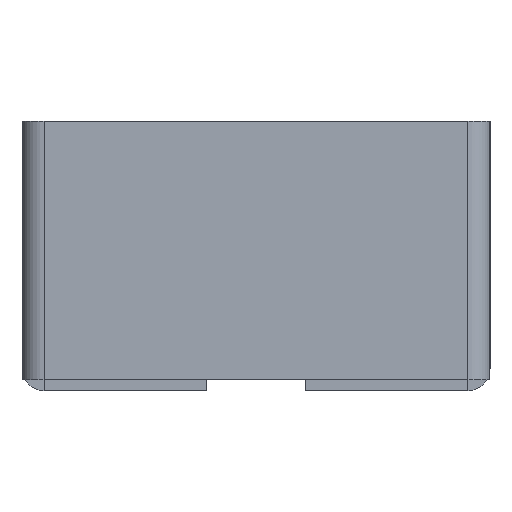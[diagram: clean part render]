
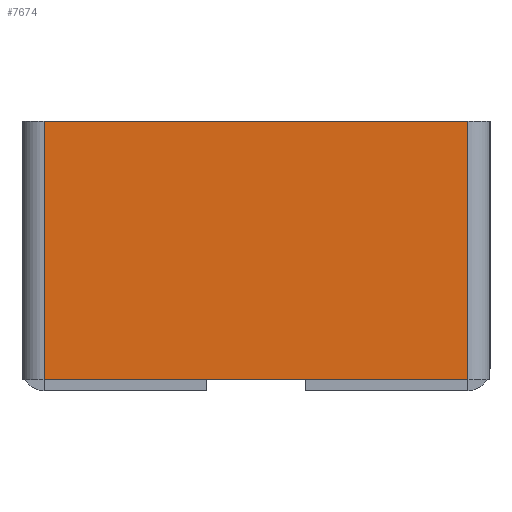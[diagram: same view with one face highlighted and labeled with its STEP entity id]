
A CAD part, front view. The second image highlights one B-rep face of the part: STEP entity #7674.
In plain terms, the highlighted planar face has unit normal (0, -1, 0).
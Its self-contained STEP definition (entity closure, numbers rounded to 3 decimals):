
#133 = CARTESIAN_POINT ( 'NONE',  ( 47.5, -2.5, -58. ) ) ;
#328 = CARTESIAN_POINT ( 'NONE',  ( -50., -2.5, -58. ) ) ;
#440 = EDGE_CURVE ( 'NONE', #4350, #10716, #8166, .T. ) ;
#591 = LINE ( 'NONE', #4101, #8839 ) ;
#1517 = EDGE_LOOP ( 'NONE', ( #8708, #2555, #9918, #10307 ) ) ;
#2119 = VERTEX_POINT ( 'NONE', #9742 ) ;
#2421 = VERTEX_POINT ( 'NONE', #3309 ) ;
#2555 = ORIENTED_EDGE ( 'NONE', *, *, #440, .F. ) ;
#2721 = EDGE_CURVE ( 'NONE', #4350, #2421, #9898, .T. ) ;
#3099 = DIRECTION ( 'NONE',  ( -1., 0., 0. ) ) ;
#3169 = DIRECTION ( 'NONE',  ( 0., 1., 0. ) ) ;
#3205 = PLANE ( 'NONE',  #4435 ) ;
#3309 = CARTESIAN_POINT ( 'NONE',  ( 47.5, -2.5, 0. ) ) ;
#3340 = FACE_OUTER_BOUND ( 'NONE', #1517, .T. ) ;
#4101 = CARTESIAN_POINT ( 'NONE',  ( -50., -2.5, 0. ) ) ;
#4199 = CARTESIAN_POINT ( 'NONE',  ( 47.5, -2.5, -58. ) ) ;
#4350 = VERTEX_POINT ( 'NONE', #4199 ) ;
#4408 = EDGE_CURVE ( 'NONE', #2119, #2421, #591, .T. ) ;
#4435 = AXIS2_PLACEMENT_3D ( 'NONE', #4813, #3169, #4883 ) ;
#4813 = CARTESIAN_POINT ( 'NONE',  ( 0., -2.5, 0. ) ) ;
#4883 = DIRECTION ( 'NONE',  ( 0., 0., 1. ) ) ;
#5526 = DIRECTION ( 'NONE',  ( 0., 0., -1. ) ) ;
#6219 = EDGE_CURVE ( 'NONE', #2119, #10716, #10047, .T. ) ;
#6595 = VECTOR ( 'NONE', #10135, 1000. ) ;
#6628 = VECTOR ( 'NONE', #5526, 1000. ) ;
#7369 = VECTOR ( 'NONE', #3099, 1000. ) ;
#7674 = ADVANCED_FACE ( 'NONE', ( #3340 ), #3205, .F. ) ;
#8166 = LINE ( 'NONE', #328, #7369 ) ;
#8678 = CARTESIAN_POINT ( 'NONE',  ( -47.5, -2.5, -58. ) ) ;
#8708 = ORIENTED_EDGE ( 'NONE', *, *, #6219, .T. ) ;
#8839 = VECTOR ( 'NONE', #10176, 1000. ) ;
#9742 = CARTESIAN_POINT ( 'NONE',  ( -47.5, -2.5, 0. ) ) ;
#9898 = LINE ( 'NONE', #133, #6595 ) ;
#9918 = ORIENTED_EDGE ( 'NONE', *, *, #2721, .T. ) ;
#10047 = LINE ( 'NONE', #10574, #6628 ) ;
#10135 = DIRECTION ( 'NONE',  ( 0., 0., 1. ) ) ;
#10176 = DIRECTION ( 'NONE',  ( 1., 0., 0. ) ) ;
#10307 = ORIENTED_EDGE ( 'NONE', *, *, #4408, .F. ) ;
#10574 = CARTESIAN_POINT ( 'NONE',  ( -47.5, -2.5, 0. ) ) ;
#10716 = VERTEX_POINT ( 'NONE', #8678 ) ;
